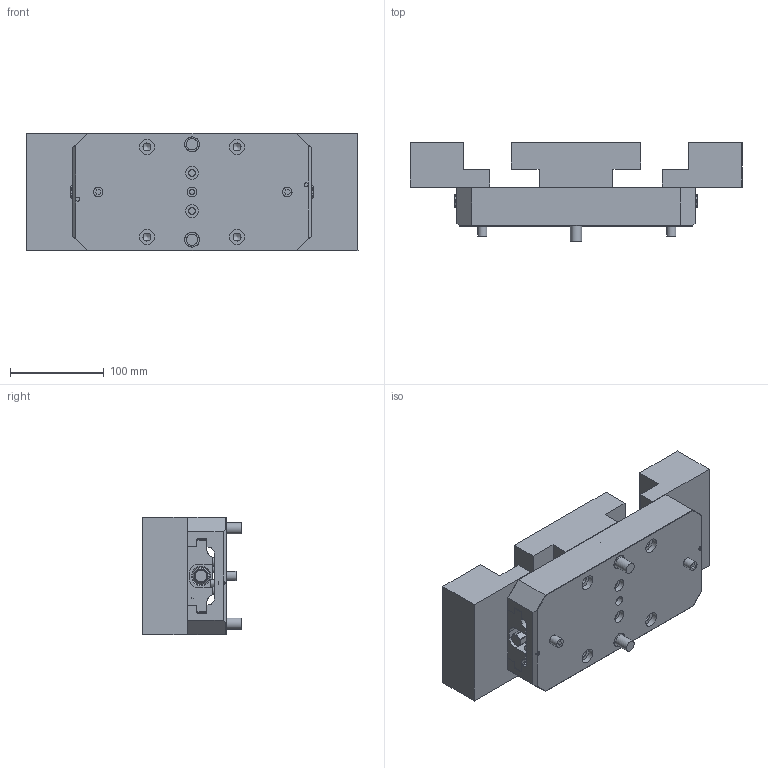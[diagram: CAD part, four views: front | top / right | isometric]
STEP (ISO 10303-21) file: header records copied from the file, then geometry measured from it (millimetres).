
FILE_DESCRIPTION (( 'STEP AP214' ), '1' );
FILE_NAME ('DV510-J3_WEBSITE.STEP', '2025-08-11T11:33:47', ( '' ), ( '' ), 'SwSTEP 2.0', 'SolidWorks 2024', '' );
FILE_SCHEMA (( 'AUTOMOTIVE_DESIGN' ));
Length unit declared in the file: inch
Products named in the file (21): V5104-1DV_WEBSITE_V510DV-1; 450-12_WEBSITE; HW.M8X12.DP_WEBSITE_DEFAULT; 76384_WEBSITE_91290A233; HW.0375.FP_WEBSITE; VSJ-DV510-M_WEBSITE_VSJ-DV510-M; HW.76300_WEBSITE_76300; LP8_WEBSITE_LP8; VSJ-DV510-F_WEBSITE_VSJ-DV510-F; DV510^DV510-J3_WEBSITE_-JX; LP10_WEBSITE_LP10; V562M-2_WEBSITE_FINAL LEFT; HW.M8X12.EPSS_WEBSITE_92775A312; V562M-2_WEBSITE_FINAL RIGHT -2RDV; HW.BASE.PLUG.M8-1.25_WEBSITE_90278A411; DV510-MJ-S_WEBSITE; HW.76400_WEBSITE_91290A635; DV510-J3_WEBSITE; HW.0875X0750.DB_WEBSITE_8491A501; HW.LC049E03S_WEBSITE_DEFAULT; V5104M-4_WEBSITE
Assembly tree (37 placements, depth 3):
  DV510-J3_WEBSITE
    DV510^DV510-J3_WEBSITE_-JX
      V5104-1DV_WEBSITE_V510DV-1
      V562M-2_WEBSITE_FINAL RIGHT -2RDV
      V562M-2_WEBSITE_FINAL LEFT
      V5104M-4_WEBSITE
      HW.BASE.PLUG.M8-1.25_WEBSITE_90278A411  x2
      HW.0875X0750.DB_WEBSITE_8491A501  x2
      HW.M8X12.DP_WEBSITE_DEFAULT  x4
      HW.LC049E03S_WEBSITE_DEFAULT  x2
      HW.M8X12.EPSS_WEBSITE_92775A312  x2
      HW.0375.FP_WEBSITE  x2
      LP8_WEBSITE_LP8  x2
      LP10_WEBSITE_LP10  x2
      76384_WEBSITE_91290A233  x2
      HW.76400_WEBSITE_91290A635  x2
      450-12_WEBSITE  x2
    DV510-MJ-S_WEBSITE
      VSJ-DV510-M_WEBSITE_VSJ-DV510-M  x2
      VSJ-DV510-F_WEBSITE_VSJ-DV510-F
      HW.76300_WEBSITE_76300  x4
Bounding box: 353.92 x 105.48 x 125.73 mm (x, y, z)
Volume: 2448830.4 mm3; surface area: 348512 mm2
Topology: 35 solids, 35 shells, 717 faces, 1579 edges, 988 vertices
Faces by surface type: plane 399, cylinder 166, cone 126, bspline 11, sphere 8, torus 7
Full cylindrical faces by diameter (mm): 3.454 x1, 4.2 x2, 4.743 x2, 5 x5, 5.5 x2, 5.969 x2, 6 x2, 6.8 x6, 7.137 x2, 7.992 x2, 8 x8, 8.019 x4, 8.024 x4, 8.128 x2, 8.5 x8, 8.912 x2, 9.144 x2, 9.474 x2, 9.576 x4, 9.957 x2, 10 x6, 10.013 x5, 10.2 x2, 10.719 x4, 12 x4, 13.487 x2, 13.894 x4, 14 x2, 14.288 x2, 16 x6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
Entity records: 17856 total; most frequent: CARTESIAN_POINT 4780, DIRECTION 2337, ORIENTED_EDGE 2006, EDGE_CURVE 1003, AXIS2_PLACEMENT_3D 893, EDGE_LOOP 751, VERTEX_POINT 712, FACE_OUTER_BOUND 617
